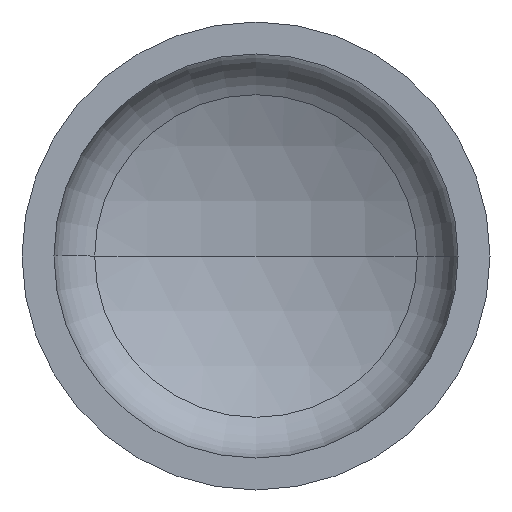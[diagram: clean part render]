
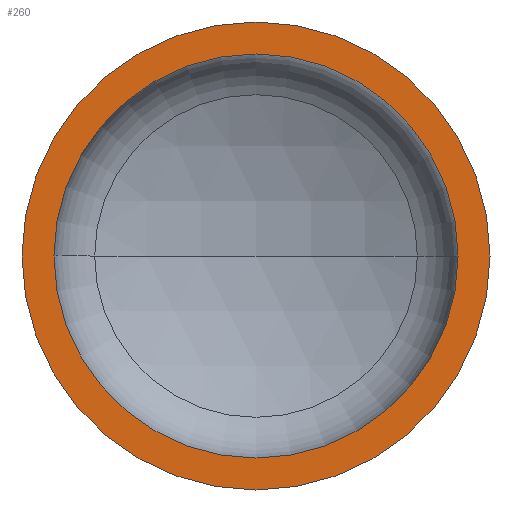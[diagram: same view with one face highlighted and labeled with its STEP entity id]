
A CAD part, front view. The second image highlights one B-rep face of the part: STEP entity #260.
In plain terms, the highlighted planar face has unit normal (0, -1, 0).
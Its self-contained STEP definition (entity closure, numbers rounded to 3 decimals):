
#2 = CIRCLE ( 'NONE', #6, 734. ) ;
#4 = EDGE_LOOP ( 'NONE', ( #110, #187 ) ) ;
#5 = CARTESIAN_POINT ( 'NONE',  ( 0., 0., 0. ) ) ;
#6 = AXIS2_PLACEMENT_3D ( 'NONE', #5, #189, #320 ) ;
#23 = AXIS2_PLACEMENT_3D ( 'NONE', #237, #33, #32 ) ;
#30 = VERTEX_POINT ( 'NONE', #288 ) ;
#32 = DIRECTION ( 'NONE',  ( -1., 0., 0. ) ) ;
#33 = DIRECTION ( 'NONE',  ( 0., 1., 0. ) ) ;
#38 = ORIENTED_EDGE ( 'NONE', *, *, #345, .F. ) ;
#52 = AXIS2_PLACEMENT_3D ( 'NONE', #339, #350, #347 ) ;
#54 = AXIS2_PLACEMENT_3D ( 'NONE', #171, #196, #201 ) ;
#55 = FACE_OUTER_BOUND ( 'NONE', #4, .T. ) ;
#65 = AXIS2_PLACEMENT_3D ( 'NONE', #226, #225, #221 ) ;
#68 = EDGE_CURVE ( 'NONE', #232, #153, #116, .T. ) ;
#79 = EDGE_CURVE ( 'NONE', #153, #232, #344, .T. ) ;
#80 = EDGE_CURVE ( 'NONE', #105, #30, #104, .T. ) ;
#104 = CIRCLE ( 'NONE', #52, 734. ) ;
#105 = VERTEX_POINT ( 'NONE', #175 ) ;
#106 = EDGE_LOOP ( 'NONE', ( #128, #38 ) ) ;
#110 = ORIENTED_EDGE ( 'NONE', *, *, #68, .T. ) ;
#116 = CIRCLE ( 'NONE', #65, 850. ) ;
#128 = ORIENTED_EDGE ( 'NONE', *, *, #80, .F. ) ;
#153 = VERTEX_POINT ( 'NONE', #321 ) ;
#154 = PLANE ( 'NONE',  #23 ) ;
#156 = CARTESIAN_POINT ( 'NONE',  ( 850., 0., 0. ) ) ;
#171 = CARTESIAN_POINT ( 'NONE',  ( 0., 0., 0. ) ) ;
#175 = CARTESIAN_POINT ( 'NONE',  ( 734., 0., 0. ) ) ;
#187 = ORIENTED_EDGE ( 'NONE', *, *, #79, .T. ) ;
#189 = DIRECTION ( 'NONE',  ( 0., -1., 0. ) ) ;
#196 = DIRECTION ( 'NONE',  ( 0., -1., 0. ) ) ;
#201 = DIRECTION ( 'NONE',  ( 1., 0., 0. ) ) ;
#221 = DIRECTION ( 'NONE',  ( 1., 0., 0. ) ) ;
#225 = DIRECTION ( 'NONE',  ( 0., -1., 0. ) ) ;
#226 = CARTESIAN_POINT ( 'NONE',  ( 0., 0., 0. ) ) ;
#232 = VERTEX_POINT ( 'NONE', #156 ) ;
#237 = CARTESIAN_POINT ( 'NONE',  ( -850., 0., 0. ) ) ;
#260 = ADVANCED_FACE ( 'NONE', ( #265, #55 ), #154, .F. ) ;
#265 = FACE_BOUND ( 'NONE', #106, .T. ) ;
#288 = CARTESIAN_POINT ( 'NONE',  ( -734., 0., 0. ) ) ;
#320 = DIRECTION ( 'NONE',  ( 1., 0., 0. ) ) ;
#321 = CARTESIAN_POINT ( 'NONE',  ( -850., 0., 0. ) ) ;
#339 = CARTESIAN_POINT ( 'NONE',  ( 0., 0., 0. ) ) ;
#344 = CIRCLE ( 'NONE', #54, 850. ) ;
#345 = EDGE_CURVE ( 'NONE', #30, #105, #2, .T. ) ;
#347 = DIRECTION ( 'NONE',  ( 1., 0., 0. ) ) ;
#350 = DIRECTION ( 'NONE',  ( 0., -1., 0. ) ) ;
